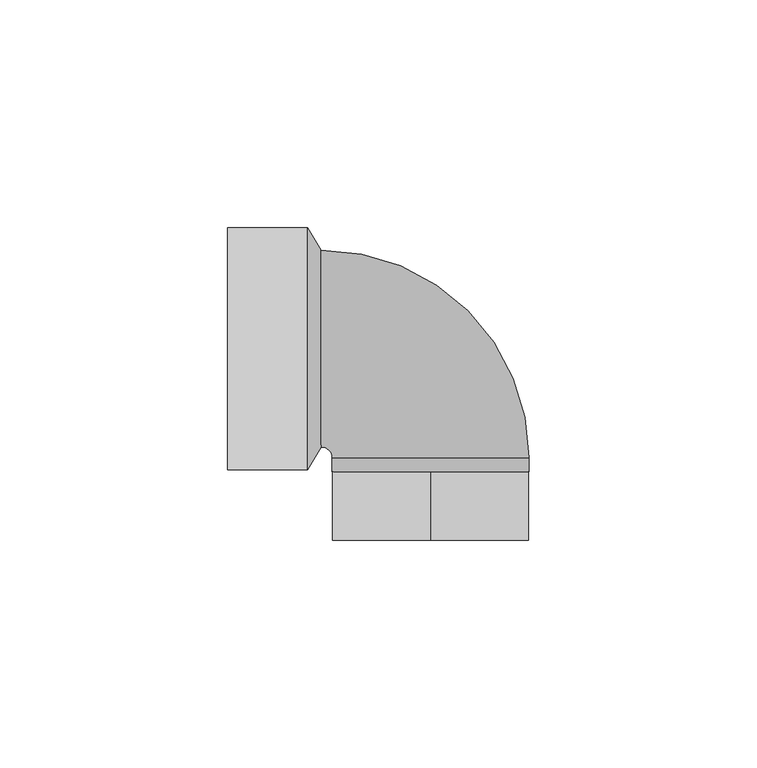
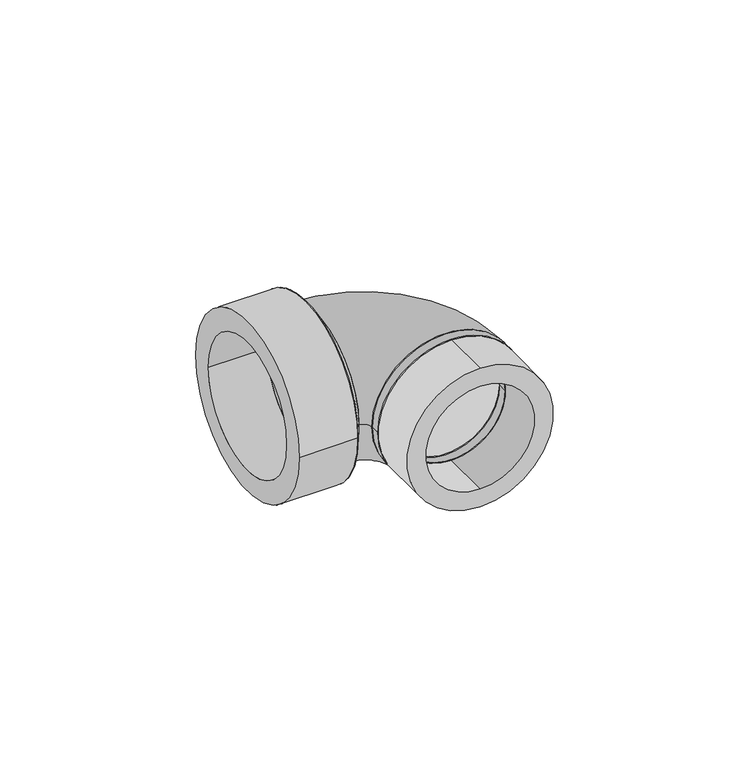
"""IFC4 building model written with IfcOpenShell, lengths in millimetres: pipe fitting geometry, 40_Угольник переходной 90 : Белый цвет."""

from ifc_helpers import new_model, si_unit, point, frame, frame_2d, origin, place, context, project, spatial, polyline, circle_curve, ellipse_curve, trimmed, segment, composite_curve, outline, extrude, source, transform, mapped, element, save
from ifc_brep_helpers import plane_surface, revolved_surface, advanced_brep


def pipe_fitting_eccebf82(model_context):
    return source(origin(), model_context, "Body", "SolidModel", [
        advanced_brep(
        [(-17.95, -24.0, 0.0), (25.25, -24.0, 0.0), (-12.35, -24.0, 0.0), (19.65, -24.0, 0.0), (-20.35, -21.6, 0.0), (-20.35, 21.6, 0.0), (-20.35, -16.0, 0.0), (-20.35, 16.0, 0.0)],
        [
            (0, 1, circle_curve(frame((3.65, -24.0, 0.0), z_axis=(0.0, -1.0, 0.0), x_axis=(1.0, 0.0, 0.0)), 21.6)),
            (1, 0, circle_curve(frame((3.65, -24.0, 0.0), z_axis=(0.0, -1.0, 0.0), x_axis=(1.0, 0.0, 0.0)), 21.6)),
            (2, 3, circle_curve(frame((3.65, -24.0, 0.0), z_axis=(0.0, 1.0, 0.0), x_axis=(1.0, 0.0, 0.0)), 16.0)),
            (3, 2, circle_curve(frame((3.65, -24.0, 0.0), z_axis=(0.0, 1.0, 0.0), x_axis=(1.0, 0.0, 0.0)), 16.0)),
            (4, 5, circle_curve(frame((-20.35, 0.0, 0.0), z_axis=(-1.0, 0.0, 0.0), x_axis=(0.0, 1.0, 0.0)), 21.6)),
            (5, 4, circle_curve(frame((-20.35, 0.0, 0.0), z_axis=(-1.0, 0.0, 0.0), x_axis=(0.0, 1.0, 0.0)), 21.6)),
            (6, 7, circle_curve(frame((-20.35, 0.0, 0.0), z_axis=(1.0, 0.0, 0.0), x_axis=(0.0, 1.0, 0.0)), 16.0)),
            (7, 6, circle_curve(frame((-20.35, 0.0, 0.0), z_axis=(1.0, 0.0, 0.0), x_axis=(0.0, 1.0, 0.0)), 16.0)),
            (4, 0, circle_curve(frame((-20.35, -24.0, 0.0), z_axis=(0.0, 0.0, -1.0), x_axis=(1.0, 0.0, 0.0)), 2.4)),
            (1, 5, circle_curve(frame((-20.35, -24.0, 0.0), z_axis=(0.0, 0.0, 1.0), x_axis=(1.0, 0.0, 0.0)), 45.6)),
            (6, 2, circle_curve(frame((-20.35, -24.0, 0.0), z_axis=(0.0, 0.0, -1.0), x_axis=(1.0, 0.0, 0.0)), 8.0)),
            (3, 7, circle_curve(frame((-20.35, -24.0, 0.0), z_axis=(0.0, 0.0, 1.0), x_axis=(1.0, 0.0, 0.0)), 40.0)),
        ],
        [
            plane_surface(frame((3.65, -24.0, 0.0), z_axis=(0.0, -1.0, 0.0), x_axis=(0.0, 0.0, 1.0))),
            plane_surface(frame((-20.35, 0.0, 0.0), z_axis=(-1.0, 0.0, 0.0), x_axis=(0.0, 0.0, 1.0))),
            revolved_surface(trimmed(ellipse_curve(frame((3.65, -24.0, 0.0), z_axis=(0.0, 1.0, 0.0), x_axis=(1.0, 0.0, 0.0)), 21.6, 21.6), [point((-17.95, -24.0, 0.0))], [point((25.25, -24.0, 0.0))], True, "CARTESIAN"), (-20.35, -24.0, 0.0), (0.0, 0.0, -1.0)),
            revolved_surface(trimmed(ellipse_curve(frame((3.65, -24.0, 0.0), z_axis=(0.0, 1.0, 0.0), x_axis=(1.0, 0.0, 0.0)), 21.6, 21.6), [point((25.25, -24.0, 0.0))], [point((-17.95, -24.0, 0.0))], True, "CARTESIAN"), (-20.35, -24.0, 0.0), (0.0, 0.0, -1.0)),
            revolved_surface(trimmed(ellipse_curve(frame((3.65, -24.0, 0.0), z_axis=(0.0, -1.0, 0.0), x_axis=(1.0, 0.0, 0.0)), 16.0, 16.0), [point((-12.35, -24.0, 0.0))], [point((19.65, -24.0, 0.0))], True, "CARTESIAN"), (-20.35, -24.0, 0.0), (0.0, 0.0, -1.0)),
            revolved_surface(trimmed(ellipse_curve(frame((3.65, -24.0, 0.0), z_axis=(0.0, -1.0, 0.0), x_axis=(1.0, 0.0, 0.0)), 16.0, 16.0), [point((19.65, -24.0, 0.0))], [point((-12.35, -24.0, 0.0))], True, "CARTESIAN"), (-20.35, -24.0, 0.0), (0.0, 0.0, -1.0)),
        ],
        [
            (0, [[1, 2], [3, 4]]),
            (1, [[5, 6], [7, 8]]),
            (2, [[-5, 9, -2, 10]]),
            (3, [[-6, -10, -1, -9]]),
            (4, [[-7, 11, -4, 12]]),
            (5, [[-8, -12, -3, -11]]),
        ],
    ),
        advanced_brep(
        [(-20.35, 21.55, 0.0), (-20.35, -21.65, 0.0), (-20.35, -16.05, 0.0), (-20.35, 15.95, 0.0), (-23.35, 26.45, 0.0), (-23.35, -26.55, 0.0), (-23.35, 19.95, 0.0), (-23.35, -20.05, 0.0)],
        [
            (0, 1, circle_curve(frame((-20.35, -0.05, 0.0), z_axis=(1.0, 0.0, 0.0), x_axis=(0.0, -1.0, 0.0)), 21.6)),
            (1, 0, circle_curve(frame((-20.35, -0.05, 0.0), z_axis=(1.0, 0.0, 0.0), x_axis=(0.0, 1.0, 0.0)), 21.6)),
            (2, 3, circle_curve(frame((-20.35, -0.05, 0.0), z_axis=(-1.0, 0.0, -1.2355450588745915e-12), x_axis=(0.0, -1.0, 0.0)), 16.0)),
            (3, 2, circle_curve(frame((-20.35, -0.05, 0.0), z_axis=(-1.0, 0.0, -1.2355450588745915e-12), x_axis=(0.0, 1.0, 0.0)), 16.0)),
            (4, 5, circle_curve(frame((-23.35, -0.05, 0.0), z_axis=(-1.0, 0.0, 0.0), x_axis=(0.0, 1.0, 0.0)), 26.5)),
            (5, 4, circle_curve(frame((-23.35, -0.05, 0.0), z_axis=(-1.0, 0.0, 0.0), x_axis=(0.0, -1.0, 0.0)), 26.5)),
            (6, 7, circle_curve(frame((-23.35, -0.05, 0.0), z_axis=(1.0, 0.0, 1.2355450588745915e-12), x_axis=(0.0, -1.0, 0.0)), 20.0)),
            (7, 6, circle_curve(frame((-23.35, -0.05, 0.0), z_axis=(1.0, 0.0, 1.2355450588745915e-12), x_axis=(0.0, 1.0, 0.0)), 20.0)),
            (1, 5),
            (4, 0),
            (7, 2),
            (3, 6),
        ],
        [
            plane_surface(frame((-20.35, -0.05, 0.0), z_axis=(1.0, 0.0, 0.0), x_axis=(0.0, 0.0, -1.0))),
            plane_surface(frame((-23.35, -0.05, 0.0), z_axis=(-1.0, 0.0, 0.0), x_axis=(0.0, 0.0, -1.0))),
            revolved_surface(polyline([(-20.35, -21.650000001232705, 0.0), (-23.35, -26.55, 0.0)]), (-7.1255102, -0.05, 0.0), (-1.0, 0.0, 0.0)),
            revolved_surface(polyline([(-20.35, 21.550000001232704, 0.0), (-23.35, 26.45, 0.0)]), (-7.1255102, -0.05, 0.0), (-1.0, 0.0, 0.0)),
            revolved_surface(polyline([(-23.35, 19.95, 0.0), (-20.35, 15.95, 0.0)]), (-8.35, -0.05, 0.0), (-1.0, 0.0, -1.2355450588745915e-12)),
            revolved_surface(polyline([(-23.35, -20.05, 0.0), (-20.35, -16.05, 0.0)]), (-8.35, -0.05, 0.0), (-1.0, 0.0, -1.2355450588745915e-12)),
        ],
        [
            (0, [[1, 2], [3, 4]]),
            (1, [[5, 6], [7, 8]]),
            (2, [[9, -5, 10, -2]]),
            (3, [[-10, -6, -9, -1]]),
            (4, [[-8, 11, -4, 12]]),
            (5, [[-3, -11, -7, -12]]),
        ],
    ),
        extrude(outline(composite_curve([segment(trimmed(circle_curve(frame_2d((0.0, 3.65)), 21.6), [point((0.0, -17.95))], [point((0.0, 25.25))], False, "CARTESIAN"), True, "CONTINUOUS"), segment(trimmed(circle_curve(frame_2d((0.0, 3.65)), 21.6), [point((0.0, 25.25))], [point((0.0, -17.95))], False, "CARTESIAN"), True, "CONTINUOUS")], self_intersect=False), holes=[composite_curve([segment(trimmed(circle_curve(frame_2d((0.0, 3.65)), 16.0), [point((0.0, -12.35))], [point((0.0, 19.65))], True, "CARTESIAN"), True, "CONTINUOUS"), segment(trimmed(circle_curve(frame_2d((0.0, 3.65)), 16.0), [point((0.0, 19.65))], [point((0.0, -12.35))], True, "CARTESIAN"), True, "CONTINUOUS")], self_intersect=False)]), frame((0.0, -27.0, 0.0), z_axis=(0.0, 1.0, 0.0), x_axis=(0.0, 0.0, 1.0)), (0.0, 0.0, 1.0), 3.0),
        extrude(outline(composite_curve([segment(trimmed(circle_curve(frame_2d((0.0, 3.65)), 21.6), [point((-21.6, 3.65))], [point((21.6, 3.65))], False, "CARTESIAN"), True, "CONTINUOUS"), segment(trimmed(circle_curve(frame_2d((0.0, 3.65)), 21.6), [point((21.6, 3.65))], [point((-21.6, 3.65))], False, "CARTESIAN"), True, "CONTINUOUS")], self_intersect=False), holes=[composite_curve([segment(trimmed(circle_curve(frame_2d((0.0, 3.65)), 16.0), [point((-16.0, 3.65))], [point((16.0, 3.65))], True, "CARTESIAN"), True, "CONTINUOUS"), segment(trimmed(circle_curve(frame_2d((0.0, 3.65)), 16.0), [point((16.0, 3.65))], [point((-16.0, 3.65))], True, "CARTESIAN"), True, "CONTINUOUS")], self_intersect=False)]), frame((0.0, -42.0, 0.0), z_axis=(0.0, 1.0, 0.0), x_axis=(0.0, 0.0, 1.0)), (0.0, 0.0, 1.0), 15.0),
        extrude(outline(composite_curve([segment(trimmed(circle_curve(frame_2d((-0.05, 0.0)), 26.5), [point((26.45, 0.0))], [point((-26.55, 0.0))], False, "CARTESIAN"), True, "CONTINUOUS"), segment(trimmed(circle_curve(frame_2d((-0.05, 0.0)), 26.5), [point((-26.55, 0.0))], [point((26.45, 0.0))], False, "CARTESIAN"), True, "CONTINUOUS")], self_intersect=False), holes=[composite_curve([segment(trimmed(circle_curve(frame_2d((-0.05, 0.0)), 20.0), [point((19.95, 0.0))], [point((-20.05, 0.0))], True, "CARTESIAN"), True, "CONTINUOUS"), segment(trimmed(circle_curve(frame_2d((-0.05, 0.0)), 20.0), [point((-20.05, 0.0))], [point((19.95, 0.0))], True, "CARTESIAN"), True, "CONTINUOUS")], self_intersect=False)]), frame((-40.85, 0.0, 0.0), z_axis=(1.0, 0.0, 0.0), x_axis=(0.0, 1.0, 0.0)), (0.0, 0.0, 1.0), 17.5),
    ])


if __name__ == "__main__":
    model = new_model("IFC4")
    model_context = context("Model", 3, world=origin())
    ifc_project = project(units=[si_unit("LENGTHUNIT", "METRE", prefix="MILLI")], contexts=[model_context])
    site = spatial("IfcSite", under=ifc_project)
    building = spatial("IfcBuilding", under=site)
    placement = place(None, origin())
    pipe_fitting_shape = pipe_fitting_eccebf82(model_context)
    element("IfcPipeFitting", 1, ObjectType="40_Угольник переходной 90 : Белый цвет", at=placement, inside=building, context=model_context, shape_type="MappedRepresentation", body=[
        mapped(pipe_fitting_shape, transform((0.0, 0.0, 0.0), x_axis=(1.0, 0.0, 0.0), y_axis=(0.0, 1.0, 0.0), z_axis=(0.0, 0.0, 1.0))),
    ])
    save(model, "model.ifc")
